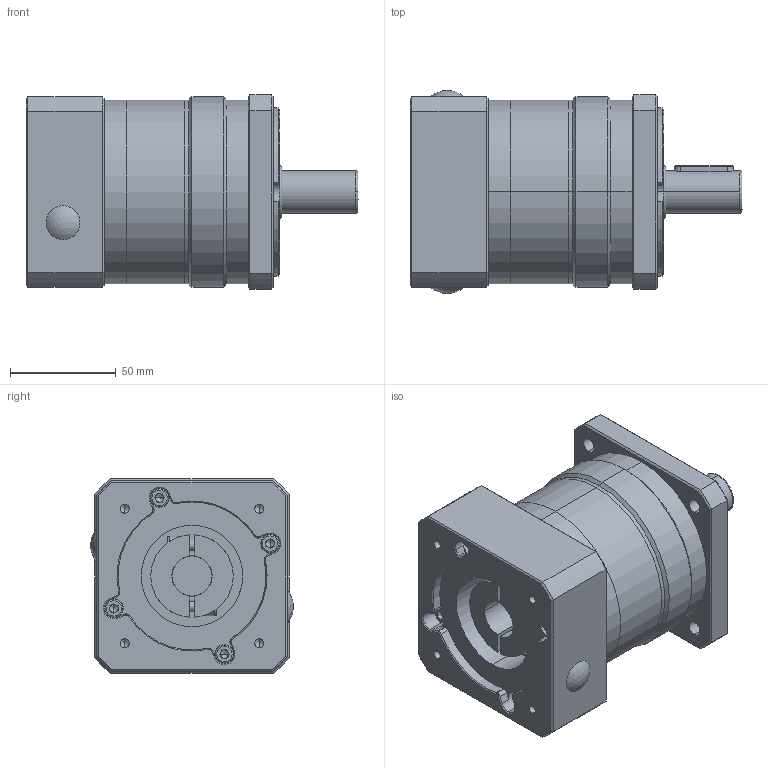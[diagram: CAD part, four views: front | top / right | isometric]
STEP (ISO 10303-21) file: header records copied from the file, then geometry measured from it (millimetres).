
FILE_DESCRIPTION (( 'STEP AP214' ), '1' );
FILE_NAME ('PLF-090-L1-S2-P2 19-70-90-M5.STEP', '2023-08-31T02:41:57', ( '微软用户' ), ( '微软中国' ), 'SwSTEP 2.0', 'SolidWorks 2018', '' );
FILE_SCHEMA (( 'AUTOMOTIVE_DESIGN' ));
Length unit declared in the file: millimetre
Products named in the file (7): PLF-090黑裔; PLF-090一级齿圈-外形; PLF-090薊粣ん-俋倛19; PLF-090输入端盖-外形70-M6-90; PLF-090怀堤傷裔-俋倛; hexagon socket head cap screws gb_GB_FASTENER_SCREWS_HSHCS M5X16-N; PLF-090-L1-S2-P2 19-70-90-M5
Assembly tree (16 placements, depth 2):
  PLF-090-L1-S2-P2 19-70-90-M5
    PLF-090怀堤傷裔-俋倛
    PLF-090一级齿圈-外形
    PLF-090输入端盖-外形70-M6-90
    PLF-090薊粣ん-俋倛19
    hexagon socket head cap screws gb_GB_FASTENER_SCREWS_HSHCS M5X16-N  x10
    PLF-090黑裔  x2
Bounding box: 157 x 96 x 92 mm (x, y, z)
Volume: 663649.4 mm3; surface area: 113820.3 mm2
Topology: 17 solids, 17 shells, 572 faces, 1358 edges, 835 vertices
Faces by surface type: plane 251, cylinder 183, cone 102, torus 26, sphere 10
Entity records: 14387 total; most frequent: CARTESIAN_POINT 2549, DIRECTION 1815, ORIENTED_EDGE 1594, EDGE_CURVE 797, AXIS2_PLACEMENT_3D 737, VERTEX_POINT 508, EDGE_LOOP 393, CIRCLE 390
